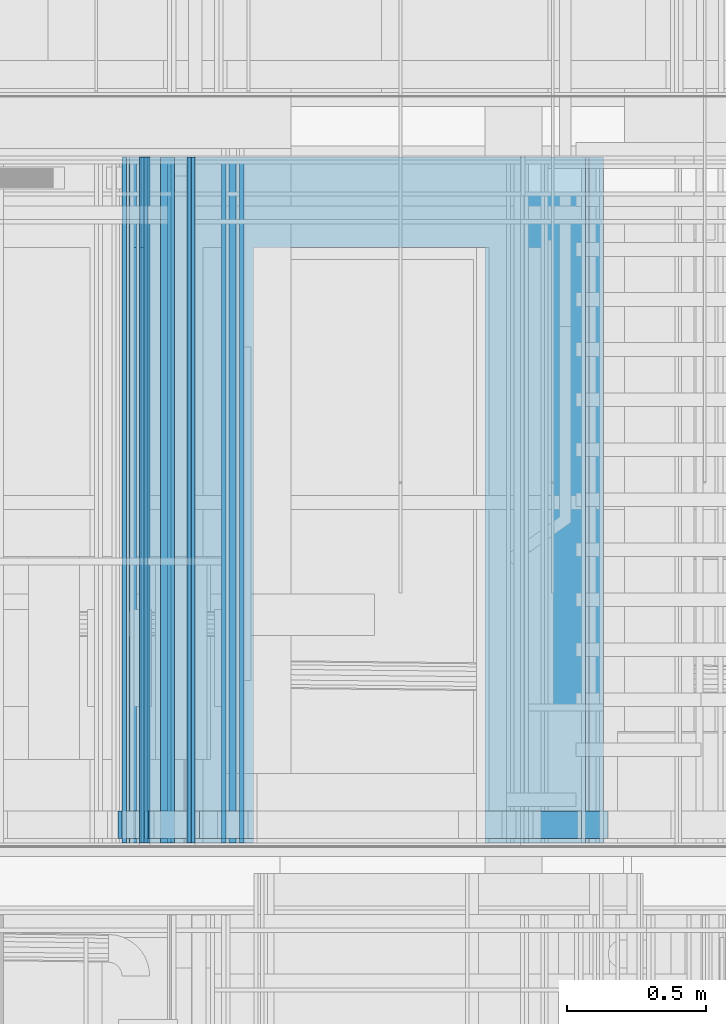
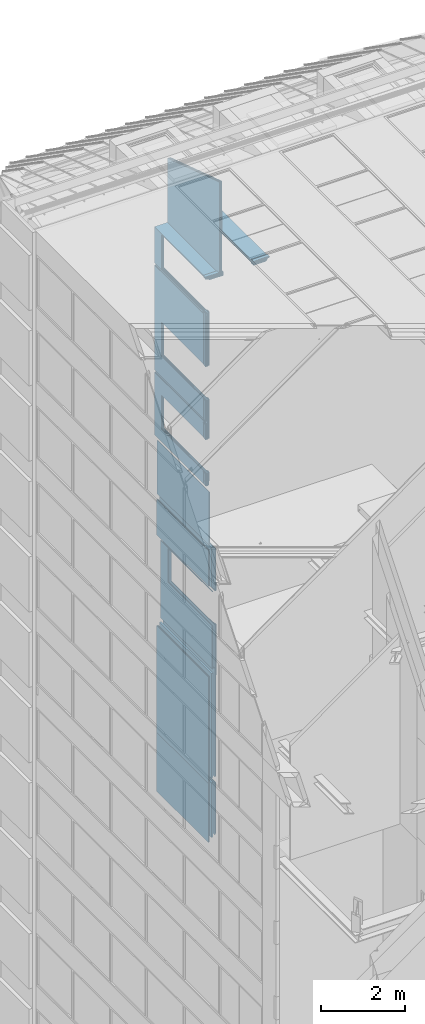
# One storey, part 144 of 583: 41 building element parts, 6 openings, 8 elements without a shape of their own.
"""IFC2X3 building model written with IfcOpenShell, lengths in metres."""

from ifc_helpers import new_model, entity, si_unit, converted_unit, derived_unit, money_unit, direction, frame, frame_2d, origin_with_axes, place, context, subcontext, project, spatial, polyline, rectangle, outline, extrude, clip, halfspace, material, type_object, element, aggregate, save


model = new_model("IFC2X3")

# Units and contexts
model_context = context("Model", 3, precision=1e-05, world=origin_with_axes(), true_north=direction((0.0, 1.0)))
body_context = subcontext(model_context, "Body", "Model", "MODEL_VIEW", scale=1.0)
ifc_project = project(units=[si_unit("LENGTHUNIT", "METRE"), si_unit("AREAUNIT", "SQUARE_METRE"), si_unit("VOLUMEUNIT", "CUBIC_METRE"), si_unit("ABSORBEDDOSEUNIT", "GRAY"), si_unit("AMOUNTOFSUBSTANCEUNIT", "MOLE"), si_unit("DOSEEQUIVALENTUNIT", "SIEVERT"), si_unit("ELECTRICCAPACITANCEUNIT", "FARAD"), si_unit("ELECTRICCHARGEUNIT", "COULOMB"), si_unit("ELECTRICCONDUCTANCEUNIT", "SIEMENS"), si_unit("ELECTRICCURRENTUNIT", "AMPERE"), si_unit("ELECTRICRESISTANCEUNIT", "OHM"), si_unit("ELECTRICVOLTAGEUNIT", "VOLT"), si_unit("ENERGYUNIT", "JOULE"), si_unit("FORCEUNIT", "NEWTON"), si_unit("FREQUENCYUNIT", "HERTZ"), si_unit("ILLUMINANCEUNIT", "LUX"), si_unit("INDUCTANCEUNIT", "HENRY"), si_unit("LUMINOUSFLUXUNIT", "LUMEN"), si_unit("LUMINOUSINTENSITYUNIT", "CANDELA"), si_unit("MAGNETICFLUXDENSITYUNIT", "TESLA"), si_unit("MAGNETICFLUXUNIT", "WEBER"), si_unit("MASSUNIT", "GRAM"), converted_unit("PLANEANGLEUNIT", "degree", entity("IfcReal", 0.0174532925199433), si_unit("PLANEANGLEUNIT", "RADIAN"), dimensions=[0, 0, 0, 0, 0, 0, 0]), si_unit("POWERUNIT", "WATT"), si_unit("PRESSUREUNIT", "PASCAL"), si_unit("RADIOACTIVITYUNIT", "BECQUEREL"), si_unit("SOLIDANGLEUNIT", "STERADIAN"), si_unit("THERMODYNAMICTEMPERATUREUNIT", "KELVIN"), si_unit("TIMEUNIT", "SECOND"), derived_unit("ACCELERATIONUNIT", [(si_unit("LENGTHUNIT", "METRE"), 1), (si_unit("TIMEUNIT", "SECOND"), -2)]), derived_unit("ANGULARVELOCITYUNIT", [(converted_unit("PLANEANGLEUNIT", "degree", entity("IfcReal", 0.0174532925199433), si_unit("PLANEANGLEUNIT", "RADIAN"), dimensions=[0, 0, 0, 0, 0, 0, 0]), 1), (si_unit("TIMEUNIT", "SECOND"), -1)]), derived_unit("CURVATUREUNIT", [(converted_unit("PLANEANGLEUNIT", "degree", entity("IfcReal", 0.0174532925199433), si_unit("PLANEANGLEUNIT", "RADIAN"), dimensions=[0, 0, 0, 0, 0, 0, 0]), 1), (si_unit("LENGTHUNIT", "METRE"), -1)]), derived_unit("DYNAMICVISCOSITYUNIT", [(si_unit("PRESSUREUNIT", "PASCAL"), 1), (si_unit("TIMEUNIT", "SECOND"), 1)]), derived_unit("HEATFLUXDENSITYUNIT", [(si_unit("POWERUNIT", "WATT"), 1), (si_unit("LENGTHUNIT", "METRE"), -2)]), derived_unit("HEATINGVALUEUNIT", [(si_unit("ENERGYUNIT", "JOULE"), 1), (si_unit("MASSUNIT", "GRAM"), -1)]), derived_unit("INTEGERCOUNTRATEUNIT", [(si_unit("TIMEUNIT", "SECOND"), -1)]), derived_unit("IONCONCENTRATIONUNIT", [(si_unit("MASSUNIT", "GRAM"), 1), (si_unit("VOLUMEUNIT", "CUBIC_METRE"), -1)]), derived_unit("ISOTHERMALMOISTURECAPACITYUNIT", [(si_unit("VOLUMEUNIT", "CUBIC_METRE"), 1), (si_unit("MASSUNIT", "GRAM"), -1)]), derived_unit("KINEMATICVISCOSITYUNIT", [(si_unit("AREAUNIT", "SQUARE_METRE"), 1), (si_unit("TIMEUNIT", "SECOND"), -1)]), derived_unit("LINEARFORCEUNIT", [(si_unit("FORCEUNIT", "NEWTON"), 1), (si_unit("LENGTHUNIT", "METRE"), -1)]), derived_unit("LINEARMOMENTUNIT", [(si_unit("FORCEUNIT", "NEWTON"), 1), (si_unit("LENGTHUNIT", "METRE"), -1)]), derived_unit("LINEARSTIFFNESSUNIT", [(si_unit("FORCEUNIT", "NEWTON"), 1), (si_unit("LENGTHUNIT", "METRE"), -1)]), derived_unit("LINEARVELOCITYUNIT", [(si_unit("LENGTHUNIT", "METRE"), 1), (si_unit("TIMEUNIT", "SECOND"), -1)]), derived_unit("LUMINOUSINTENSITYDISTRIBUTIONUNIT", [(si_unit("LUMINOUSINTENSITYUNIT", "CANDELA"), 1), (si_unit("LUMINOUSFLUXUNIT", "LUMEN"), -1)]), derived_unit("MASSDENSITYUNIT", [(si_unit("MASSUNIT", "GRAM"), 1), (si_unit("VOLUMEUNIT", "CUBIC_METRE"), -1)]), derived_unit("MASSFLOWRATEUNIT", [(si_unit("MASSUNIT", "GRAM"), 1), (si_unit("TIMEUNIT", "SECOND"), -1)]), derived_unit("MASSPERLENGTHUNIT", [(si_unit("MASSUNIT", "GRAM"), 1), (si_unit("LENGTHUNIT", "METRE"), -1)]), derived_unit("MODULUSOFELASTICITYUNIT", [(si_unit("FORCEUNIT", "NEWTON"), 1), (si_unit("AREAUNIT", "SQUARE_METRE"), -1)]), derived_unit("MODULUSOFLINEARSUBGRADEREACTIONUNIT", [(si_unit("FORCEUNIT", "NEWTON"), 1), (si_unit("LENGTHUNIT", "METRE"), -2)]), derived_unit("MODULUSOFROTATIONALSUBGRADEREACTIONUNIT", [(si_unit("FORCEUNIT", "NEWTON"), 1), (si_unit("LENGTHUNIT", "METRE"), 1)]), derived_unit("MODULUSOFSUBGRADEREACTIONUNIT", [(si_unit("FORCEUNIT", "NEWTON"), 1), (si_unit("VOLUMEUNIT", "CUBIC_METRE"), -1)]), derived_unit("MOISTUREDIFFUSIVITYUNIT", [(si_unit("VOLUMEUNIT", "CUBIC_METRE"), 1), (si_unit("TIMEUNIT", "SECOND"), -1)]), derived_unit("MOLECULARWEIGHTUNIT", [(si_unit("MASSUNIT", "GRAM"), 1), (si_unit("AMOUNTOFSUBSTANCEUNIT", "MOLE"), -1)]), derived_unit("PLANARFORCEUNIT", [(si_unit("FORCEUNIT", "NEWTON"), 1), (si_unit("LENGTHUNIT", "METRE"), -2)]), derived_unit("ROTATIONALFREQUENCYUNIT", [(si_unit("TIMEUNIT", "SECOND"), -1)]), derived_unit("ROTATIONALMASSUNIT", [(si_unit("MASSUNIT", "GRAM"), 1), (si_unit("LENGTHUNIT", "METRE"), 2)]), derived_unit("ROTATIONALSTIFFNESSUNIT", [(si_unit("FORCEUNIT", "NEWTON"), 1), (si_unit("LENGTHUNIT", "METRE"), 1), (converted_unit("PLANEANGLEUNIT", "degree", entity("IfcReal", 0.0174532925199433), si_unit("PLANEANGLEUNIT", "RADIAN"), dimensions=[0, 0, 0, 0, 0, 0, 0]), -1)]), derived_unit("SECTIONAREAINTEGRALUNIT", [(si_unit("LENGTHUNIT", "METRE"), 5)]), derived_unit("SECTIONMODULUSUNIT", [(si_unit("LENGTHUNIT", "METRE"), 3)]), derived_unit("SHEARMODULUSUNIT", [(si_unit("FORCEUNIT", "NEWTON"), 1), (si_unit("AREAUNIT", "SQUARE_METRE"), -1)]), derived_unit("SOUNDPOWERUNIT", [(si_unit("ENERGYUNIT", "JOULE"), 1), (si_unit("TIMEUNIT", "SECOND"), -1)]), derived_unit("SPECIFICHEATCAPACITYUNIT", [(si_unit("FORCEUNIT", "NEWTON"), 1), (si_unit("MASSUNIT", "GRAM"), -1), (si_unit("THERMODYNAMICTEMPERATUREUNIT", "KELVIN"), -1)]), derived_unit("TEMPERATUREGRADIENTUNIT", [(si_unit("THERMODYNAMICTEMPERATUREUNIT", "KELVIN"), 1), (si_unit("LENGTHUNIT", "METRE"), -1)]), derived_unit("THERMALADMITTANCEUNIT", [(si_unit("POWERUNIT", "WATT"), 1), (si_unit("AREAUNIT", "SQUARE_METRE"), -1), (si_unit("THERMODYNAMICTEMPERATUREUNIT", "KELVIN"), -1)]), derived_unit("THERMALCONDUCTANCEUNIT", [(si_unit("POWERUNIT", "WATT"), 1), (si_unit("LENGTHUNIT", "METRE"), -1), (si_unit("THERMODYNAMICTEMPERATUREUNIT", "KELVIN"), -1)]), derived_unit("THERMALEXPANSIONCOEFFICIENTUNIT", [(si_unit("THERMODYNAMICTEMPERATUREUNIT", "KELVIN"), -1)]), derived_unit("THERMALRESISTANCEUNIT", [(si_unit("AREAUNIT", "SQUARE_METRE"), 1), (si_unit("POWERUNIT", "WATT"), -1)]), derived_unit("THERMALTRANSMITTANCEUNIT", [(si_unit("POWERUNIT", "WATT"), 1), (si_unit("AREAUNIT", "SQUARE_METRE"), -1), (si_unit("THERMODYNAMICTEMPERATUREUNIT", "KELVIN"), -1)]), derived_unit("TORQUEUNIT", [(si_unit("FORCEUNIT", "NEWTON"), 1), (si_unit("LENGTHUNIT", "METRE"), 1)]), derived_unit("VAPORPERMEABILITYUNIT", [(si_unit("MASSUNIT", "GRAM"), 1), (si_unit("TIMEUNIT", "SECOND"), -1)]), derived_unit("VOLUMETRICFLOWRATEUNIT", [(si_unit("VOLUMEUNIT", "CUBIC_METRE"), 1), (si_unit("TIMEUNIT", "SECOND"), -1)]), derived_unit("WARPINGCONSTANTUNIT", [(si_unit("LENGTHUNIT", "METRE"), 6)]), derived_unit("WARPINGMOMENTUNIT", [(si_unit("FORCEUNIT", "NEWTON"), 1), (si_unit("LENGTHUNIT", "METRE"), 2)]), money_unit("GBP")], contexts=[model_context])

# Site, building, storey
site_placement = place(None, origin_with_axes())
site = spatial("IfcSite", under=ifc_project, at=site_placement, Name="Site", CompositionType="ELEMENT")
building_placement = place(site_placement, origin_with_axes())
building = spatial("IfcBuilding", under=site, at=building_placement, Name="Building01", CompositionType="ELEMENT")
storey_placement = place(building_placement, frame((0.0, 0.0, 20.78), z_axis=(0.0, 0.0, 1.0), x_axis=(1.0, 0.0, 0.0)))
storey = spatial("IfcBuildingStorey", under=building, at=storey_placement, Name="RL", CompositionType="ELEMENT", Elevation=20.78)

# Wall, opening, building element parts
wall_type_1 = type_object("IfcWallType", Name="SHE_A-Walls_Type05b_Partition_80mm", PredefinedType="NOTDEFINED")
wall_1_placement = place(storey_placement, frame((4.844, 14.98, 2.983), z_axis=(0.0, 1.0, 0.0), x_axis=(1.0, 0.0, 0.0)))
wall_1 = element("IfcWall", 1, at=wall_1_placement, inside=storey, type_object=wall_type_1, Name="5B", ObjectType="SHE_A-Walls_Type05b_Partition_80mm")
opening_1_placement = place(wall_1_placement, frame((0.444939, -0.027, 0.0), z_axis=(0.0, 0.0, 1.0), x_axis=(1.0, 0.0, 0.0)))
element("IfcOpeningElement", 2, at=opening_1_placement, cuts=wall_1, Name="Opening", ObjectType="Opening", context=body_context, shape_type="SweptSolid", body=[
    extrude(rectangle(XDim=2.142, YDim=0.834, at=frame_2d((0.417, 1.071), x_axis=(0.0, -1.0))), frame((0.0, 3.869333, 0.0), z_axis=(0.0, -1.0, 0.0), x_axis=(1.0, 0.0, 0.0)), (0.0, 0.0, 1.0), 7.738666),
])
ifc_material_1 = material(Name="A_BSUK_Insulation")
placement_1 = place(wall_1_placement, origin_with_axes())
building_element_part_1 = element("IfcBuildingElementPart", 3, at=placement_1, material=ifc_material_1, Name="1", context=body_context, shape_type="SweptSolid", body=[
    extrude(rectangle(XDim=1.654085, YDim=0.025, at=frame_2d((0.827042, 0.0125), x_axis=(-1.0, 0.0))), origin_with_axes(), (0.0, 0.0, 1.0), 2.468),
])
ifc_material_2 = material(Name="A_BSUK_Walls_Timber")
building_element_part_2 = element("IfcBuildingElementPart", 4, at=placement_1, material=ifc_material_2, Name="2", context=body_context, shape_type="SweptSolid", body=[
    extrude(outline(polyline([(1.611085, 0.068), (0.068, 0.068), (0.053, 0.053), (1.626085, 0.053), (1.611085, 0.068)])), frame((0.0, 0.0, 0.015), z_axis=(0.0, 0.0, 1.0), x_axis=(1.0, 0.0, 0.0)), (0.0, 0.0, 1.0), 0.1),
])
ifc_material_3 = material(Name="A_BSUK_WallInternal_Finishes_Plasterboard")
building_element_part_3 = element("IfcBuildingElementPart", 5, at=placement_1, material=ifc_material_3, Name="3", context=body_context, shape_type="SweptSolid", body=[
    extrude(outline(polyline([(1.626085, 0.053), (0.053, 0.053), (0.038, 0.038), (1.641085, 0.038), (1.626085, 0.053)])), origin_with_axes(), (0.0, 0.0, 1.0), 2.468),
])
building_element_part_4 = element("IfcBuildingElementPart", 6, at=placement_1, material=ifc_material_3, Name="4", context=body_context, shape_type="SweptSolid", body=[
    extrude(outline(polyline([(1.691085, -0.012), (-0.012, -0.012), (-0.027, -0.027), (1.706085, -0.027), (1.691085, -0.012)])), origin_with_axes(), (0.0, 0.0, 1.0), 2.468),
])
building_element_part_5 = element("IfcBuildingElementPart", 7, at=placement_1, material=ifc_material_2, Name="5", context=body_context, shape_type="SweptSolid", body=[
    extrude(outline(polyline([(1.706085, -0.027), (-0.027, -0.027), (-0.042, -0.042), (1.721085, -0.042), (1.706085, -0.027)])), frame((0.0, 0.0, 0.015), z_axis=(0.0, 0.0, 1.0), x_axis=(1.0, 0.0, 0.0)), (0.0, 0.0, 1.0), 0.1),
])
building_element_part_6 = element("IfcBuildingElementPart", 8, at=placement_1, material=ifc_material_2, Name="6", context=body_context, shape_type="SweptSolid", body=[
    extrude(outline(polyline([(1.706085, -0.027), (0.451294, -0.027), (0.451294, -0.042), (1.721085, -0.042), (1.706085, -0.027)])), frame((0.0, 0.0, 0.015), z_axis=(0.0, 0.0, 1.0), x_axis=(1.0, 0.0, 0.0)), (0.0, 0.0, 1.0), 0.1),
])
building_element_part_7 = element("IfcBuildingElementPart", 9, at=placement_1, material=ifc_material_3, Name="7", context=body_context, shape_type="SweptSolid", body=[
    extrude(outline(polyline([(1.691085, -0.012), (0.395915, -0.012), (0.395915, -0.027), (1.706085, -0.027), (1.691085, -0.012)])), origin_with_axes(), (0.0, 0.0, 1.0), 2.468),
])
aggregate(wall_1, [building_element_part_1, building_element_part_2, building_element_part_3, building_element_part_4, building_element_part_5, building_element_part_6, building_element_part_7])

# Wall, building element parts
wall_type_2 = type_object("IfcWallType", Name="SHE_A-Walls_Type01d_Partywall_200mm_twin", PredefinedType="NOTDEFINED")
wall_2_placement = place(storey_placement, frame((4.955, 14.98, -13.295), z_axis=(0.0, 1.0, 0.0), x_axis=(0.0, 0.0, 1.0)))
wall_2 = element("IfcWall", 10, at=wall_2_placement, inside=storey, type_object=wall_type_2, Name="1D", ObjectType="SHE_A-Walls_Type01d_Partywall_200mm_twin")
placement_2 = place(wall_2_placement, origin_with_axes())
building_element_part_8 = element("IfcBuildingElementPart", 11, at=placement_2, material=ifc_material_1, Name="1", context=body_context, shape_type="SweptSolid", body=[
    extrude(rectangle(XDim=1.59, YDim=0.05, at=frame_2d((0.795, 0.025), x_axis=(-1.0, 0.0))), origin_with_axes(), (0.0, 0.0, 1.0), 2.468),
])
building_element_part_9 = element("IfcBuildingElementPart", 12, at=placement_2, material=ifc_material_3, Name="3", context=body_context, shape_type="SweptSolid", body=[
    extrude(outline(polyline([(1.575, 0.125), (0.075, 0.125), (0.06, 0.11), (1.575, 0.11), (1.575, 0.125)])), origin_with_axes(), (0.0, 0.0, 1.0), 2.468),
])
building_element_part_10 = element("IfcBuildingElementPart", 13, at=placement_2, material=ifc_material_3, Name="4", context=body_context, shape_type="SweptSolid", body=[
    extrude(outline(polyline([(1.59, 0.11), (0.06, 0.11), (0.045, 0.095), (1.59, 0.095), (1.59, 0.11)])), origin_with_axes(), (0.0, 0.0, 1.0), 2.468),
])
building_element_part_11 = element("IfcBuildingElementPart", 14, at=placement_2, material=ifc_material_3, Name="5", context=body_context, shape_type="SweptSolid", body=[
    extrude(outline(polyline([(1.59, -0.045), (-0.095, -0.045), (-0.11, -0.06), (1.59, -0.06), (1.59, -0.045)])), origin_with_axes(), (0.0, 0.0, 1.0), 2.468),
])
building_element_part_12 = element("IfcBuildingElementPart", 15, at=placement_2, material=ifc_material_3, Name="6", context=body_context, shape_type="SweptSolid", body=[
    extrude(outline(polyline([(1.59, -0.06), (-0.11, -0.06), (-0.125, -0.075), (1.59, -0.075), (1.59, -0.06)])), origin_with_axes(), (0.0, 0.0, 1.0), 2.468),
])
aggregate(wall_2, [building_element_part_8, building_element_part_9, building_element_part_10, building_element_part_11, building_element_part_12])

# Wall, openings, building element parts
wall_type_3 = type_object("IfcWallType", Name="SHE_A-Walls_Type03c_Firewall_F120_100mm", PredefinedType="NOTDEFINED")
wall_3_placement = place(storey_placement, frame((5.08, 14.995, -8.605), z_axis=(0.0, 1.0, 0.0), x_axis=(0.0, 0.0, 1.0)))
wall_3 = element("IfcWall", 16, at=wall_3_placement, inside=storey, type_object=wall_type_3, Name="3C", ObjectType="SHE_A-Walls_Type03c_Firewall_F120_100mm")
opening_2_placement = place(wall_3_placement, frame((1.45, -0.29615, -0.045), z_axis=(0.0, 0.0, 1.0), x_axis=(1.0, 0.0, 0.0)))
element("IfcOpeningElement", 17, at=opening_2_placement, cuts=wall_3, Name="Opening", ObjectType="Opening", context=body_context, shape_type="SweptSolid", body=[
    extrude(rectangle(XDim=0.984, YDim=2.1, at=frame_2d((-0.492, 1.05), x_axis=(-1.0, 0.0))), frame((0.0, -9.737966, 0.0), z_axis=(0.0, 1.0, 0.0), x_axis=(-1.0, 0.0, 0.0)), (0.0, 0.0, 1.0), 19.475931),
])
opening_3_placement = place(wall_3_placement, frame((1.45, -0.1, -0.015), z_axis=(0.0, 0.0, 1.0), x_axis=(1.0, 0.0, 0.0)))
element("IfcOpeningElement", 18, at=opening_3_placement, cuts=wall_3, Name="Opening", ObjectType="Opening", context=body_context, shape_type="SweptSolid", body=[
    extrude(rectangle(XDim=0.984, YDim=2.1, at=frame_2d((-0.492, 1.05), x_axis=(-1.0, 0.0))), frame((0.0, -3.747373, 0.0), z_axis=(0.0, 1.0, 0.0), x_axis=(-1.0, 0.0, 0.0)), (0.0, 0.0, 1.0), 7.494746),
])
placement_3 = place(wall_3_placement, origin_with_axes())
building_element_part_13 = element("IfcBuildingElementPart", 19, at=placement_3, material=ifc_material_2, Name="1", context=body_context, shape_type="SweptSolid", body=[
    extrude(outline(polyline([(2.665, 0.015), (-0.015, 0.015), (0.0, 0.0), (2.65, 0.0), (2.665, 0.015)])), origin_with_axes(), (0.0, 0.0, 1.0), 0.1),
])
building_element_part_14 = element("IfcBuildingElementPart", 20, at=placement_3, material=ifc_material_3, Name="2", context=body_context, shape_type="SweptSolid", body=[
    extrude(rectangle(XDim=2.25, YDim=0.013, at=frame_2d((1.325, -0.0065), x_axis=(-1.0, 0.0))), frame((0.0, 0.0, -0.015), z_axis=(0.0, 0.0, 1.0), x_axis=(1.0, 0.0, 0.0)), (0.0, 0.0, 1.0), 2.468),
])
building_element_part_15 = element("IfcBuildingElementPart", 21, at=placement_3, material=ifc_material_3, Name="3", context=body_context, shape_type="SweptSolid", body=[
    extrude(rectangle(XDim=2.25, YDim=0.013, at=frame_2d((1.325, -0.0935), x_axis=(-1.0, 0.0))), frame((0.0, 0.0, -0.015), z_axis=(0.0, 0.0, 1.0), x_axis=(1.0, 0.0, 0.0)), (0.0, 0.0, 1.0), 2.468),
])
building_element_part_16 = element("IfcBuildingElementPart", 22, at=placement_3, material=ifc_material_3, Name="4", context=body_context, shape_type="SweptSolid", body=[
    extrude(rectangle(XDim=2.25, YDim=0.012, at=frame_2d((1.325, -0.019), x_axis=(-1.0, 0.0))), frame((0.0, 0.0, -0.015), z_axis=(0.0, 0.0, 1.0), x_axis=(1.0, 0.0, 0.0)), (0.0, 0.0, 1.0), 2.468),
])
building_element_part_17 = element("IfcBuildingElementPart", 23, at=placement_3, material=ifc_material_3, Name="5", context=body_context, shape_type="SweptSolid", body=[
    extrude(rectangle(XDim=2.25, YDim=0.012, at=frame_2d((1.325, -0.081), x_axis=(-1.0, 0.0))), frame((0.0, 0.0, -0.015), z_axis=(0.0, 0.0, 1.0), x_axis=(1.0, 0.0, 0.0)), (0.0, 0.0, 1.0), 2.468),
])
aggregate(wall_3, [building_element_part_13, building_element_part_14, building_element_part_15, building_element_part_16, building_element_part_17])

# Wall, building element parts
wall_4_placement = place(storey_placement, frame((4.842, 14.98, -3.16656), z_axis=(0.0, 1.0, 0.0), x_axis=(0.0, 0.0, -1.0)))
wall_4 = element("IfcWall", 24, at=wall_4_placement, inside=storey, type_object=wall_type_2, Name="1D", ObjectType="SHE_A-Walls_Type01d_Partywall_200mm_twin")
placement_4 = place(wall_4_placement, origin_with_axes())
building_element_part_18 = element("IfcBuildingElementPart", 25, at=placement_4, material=ifc_material_3, Name="5", context=body_context, shape_type="SweptSolid", body=[
    extrude(outline(polyline([(1.605, -0.045), (0.045, -0.045), (0.06, -0.06), (1.59, -0.06), (1.605, -0.045)])), origin_with_axes(), (0.0, 0.0, 1.0), 2.468),
])
building_element_part_19 = element("IfcBuildingElementPart", 26, at=placement_4, material=ifc_material_3, Name="6", context=body_context, shape_type="SweptSolid", body=[
    extrude(outline(polyline([(1.59, -0.06), (0.06, -0.06), (0.075, -0.075), (1.575, -0.075), (1.59, -0.06)])), origin_with_axes(), (0.0, 0.0, 1.0), 2.468),
])
aggregate(wall_4, [building_element_part_18, building_element_part_19])

wall_5_placement = place(storey_placement, frame((4.955, 14.98, -6.03), z_axis=(0.0, 1.0, 0.0), x_axis=(0.0, 0.0, 1.0)))
wall_5 = element("IfcWall", 27, at=wall_5_placement, inside=storey, type_object=wall_type_2, Name="1D", ObjectType="SHE_A-Walls_Type01d_Partywall_200mm_twin")
placement_5 = place(wall_5_placement, origin_with_axes())
building_element_part_20 = element("IfcBuildingElementPart", 28, at=placement_5, material=ifc_material_1, Name="1", context=body_context, shape_type="SweptSolid", body=[
    extrude(rectangle(XDim=1.16344, YDim=0.05, at=frame_2d((0.58172, 0.025), x_axis=(-1.0, 0.0))), origin_with_axes(), (0.0, 0.0, 1.0), 2.468),
])
building_element_part_21 = element("IfcBuildingElementPart", 29, at=placement_5, material=ifc_material_3, Name="3", context=body_context, shape_type="SweptSolid", body=[
    extrude(rectangle(XDim=1.22844, YDim=0.015, at=frame_2d((0.48922, 0.1175), x_axis=(-1.0, 0.0))), origin_with_axes(), (0.0, 0.0, 1.0), 2.468),
])
building_element_part_22 = element("IfcBuildingElementPart", 30, at=placement_5, material=ifc_material_3, Name="4", context=body_context, shape_type="SweptSolid", body=[
    extrude(rectangle(XDim=1.21344, YDim=0.015, at=frame_2d((0.51172, 0.1025), x_axis=(-1.0, 0.0))), origin_with_axes(), (0.0, 0.0, 1.0), 2.468),
])
building_element_part_23 = element("IfcBuildingElementPart", 31, at=placement_5, material=ifc_material_3, Name="5", context=body_context, shape_type="SweptSolid", body=[
    extrude(rectangle(XDim=1.05844, YDim=0.015, at=frame_2d((0.57422, -0.0525), x_axis=(-1.0, 0.0))), origin_with_axes(), (0.0, 0.0, 1.0), 2.468),
])
building_element_part_24 = element("IfcBuildingElementPart", 32, at=placement_5, material=ifc_material_3, Name="6", context=body_context, shape_type="SweptSolid", body=[
    extrude(rectangle(XDim=1.02844, YDim=0.015, at=frame_2d((0.57422, -0.0675), x_axis=(-1.0, 0.0))), origin_with_axes(), (0.0, 0.0, 1.0), 2.468),
])
aggregate(wall_5, [building_element_part_20, building_element_part_21, building_element_part_22, building_element_part_23, building_element_part_24])

wall_6_placement = place(storey_placement, frame((4.955, 14.98, -11.565), z_axis=(0.0, 1.0, 0.0), x_axis=(0.0, 0.0, 1.0)))
wall_6 = element("IfcWall", 33, at=wall_6_placement, inside=storey, type_object=wall_type_2, Name="1D", ObjectType="SHE_A-Walls_Type01d_Partywall_200mm_twin")
placement_6 = place(wall_6_placement, origin_with_axes())
building_element_part_25 = element("IfcBuildingElementPart", 34, at=placement_6, material=ifc_material_1, Name="1", context=body_context, shape_type="SweptSolid", body=[
    extrude(rectangle(XDim=3.035, YDim=0.05, at=frame_2d((1.5175, 0.025), x_axis=(-1.0, 0.0))), origin_with_axes(), (0.0, 0.0, 1.0), 2.468),
])
building_element_part_26 = element("IfcBuildingElementPart", 35, at=placement_6, material=ifc_material_3, Name="3", context=body_context, shape_type="SweptSolid", body=[
    extrude(rectangle(XDim=3.145, YDim=0.015, at=frame_2d((1.5875, 0.1175), x_axis=(-1.0, 0.0))), origin_with_axes(), (0.0, 0.0, 1.0), 2.468),
])
building_element_part_27 = element("IfcBuildingElementPart", 36, at=placement_6, material=ifc_material_3, Name="4", context=body_context, shape_type="SweptSolid", body=[
    extrude(rectangle(XDim=3.145, YDim=0.015, at=frame_2d((1.5725, 0.1025), x_axis=(-1.0, 0.0))), origin_with_axes(), (0.0, 0.0, 1.0), 2.468),
])
building_element_part_28 = element("IfcBuildingElementPart", 37, at=placement_6, material=ifc_material_3, Name="5", context=body_context, shape_type="SweptSolid", body=[
    extrude(rectangle(XDim=3.115, YDim=0.015, at=frame_2d((1.4175, -0.0525), x_axis=(-1.0, 0.0))), origin_with_axes(), (0.0, 0.0, 1.0), 2.468),
])
building_element_part_29 = element("IfcBuildingElementPart", 38, at=placement_6, material=ifc_material_3, Name="6", context=body_context, shape_type="SweptSolid", body=[
    extrude(rectangle(XDim=3.1, YDim=0.015, at=frame_2d((1.41, -0.0675), x_axis=(-1.0, 0.0))), origin_with_axes(), (0.0, 0.0, 1.0), 2.468),
])
aggregate(wall_6, [building_element_part_25, building_element_part_26, building_element_part_27, building_element_part_28, building_element_part_29])

wall_7_placement = place(storey_placement, frame((5.201915, 14.98, 2.983), z_axis=(0.0, 1.0, 0.0), x_axis=(0.0, 0.0, 1.0)))
wall_7 = element("IfcWall", 39, at=wall_7_placement, inside=storey, type_object=wall_type_1, Name="5B", ObjectType="SHE_A-Walls_Type05b_Partition_80mm")
placement_7 = place(wall_7_placement, origin_with_axes())
building_element_part_30 = element("IfcBuildingElementPart", 40, at=placement_7, material=ifc_material_1, Name="1", context=body_context, shape_type="Clipping", body=[
    clip(extrude(rectangle(XDim=2.693143, YDim=0.025, at=frame_2d((1.346572, 0.0125), x_axis=(-1.0, 0.0))), origin_with_axes(), (0.0, 0.0, 1.0), 2.468), halfspace(frame((2.435971, 0.0, 0.791495), z_axis=(-0.95105652, 0.0, -0.30901699), x_axis=(0.0, -1.0, 0.0)), True)),
])
building_element_part_31 = element("IfcBuildingElementPart", 41, at=placement_7, material=ifc_material_3, Name="3", context=body_context, shape_type="Clipping", body=[
    clip(extrude(rectangle(XDim=2.666143, YDim=0.015, at=frame_2d((1.360072, 0.0455), x_axis=(-1.0, 0.0))), origin_with_axes(), (0.0, 0.0, 1.0), 2.468), halfspace(frame((2.435971, 0.0, 0.791495), z_axis=(-0.95105652, 0.0, -0.30901699), x_axis=(0.0, -1.0, 0.0)), True)),
])
building_element_part_32 = element("IfcBuildingElementPart", 42, at=placement_7, material=ifc_material_3, Name="4", context=body_context, shape_type="Clipping", body=[
    clip(extrude(rectangle(XDim=2.666143, YDim=0.015, at=frame_2d((1.360072, -0.0195), x_axis=(-1.0, 0.0))), origin_with_axes(), (0.0, 0.0, 1.0), 2.468), halfspace(frame((2.435971, 0.0, 0.791495), z_axis=(-0.95105652, 0.0, -0.30901699), x_axis=(0.0, -1.0, 0.0)), True)),
])
aggregate(wall_7, [building_element_part_30, building_element_part_31, building_element_part_32])

# Wall, openings, building element parts
wall_8_placement = place(storey_placement, frame((4.844, 14.98, -3.04156), z_axis=(0.0, 1.0, 0.0), x_axis=(0.0, 0.0, 1.0)))
wall_8 = element("IfcWall", 43, at=wall_8_placement, inside=storey, type_object=wall_type_1, Name="5B", ObjectType="SHE_A-Walls_Type05b_Partition_80mm")
opening_4_placement = place(wall_8_placement, frame((0.369536, -0.01915, 0.0), z_axis=(0.0, 0.0, 1.0), x_axis=(1.0, 0.0, 0.0)))
element("IfcOpeningElement", 44, at=opening_4_placement, cuts=wall_8, Name="Opening", ObjectType="Opening", context=body_context, shape_type="SweptSolid", body=[
    extrude(rectangle(XDim=0.984, YDim=2.142, at=frame_2d((0.492, 1.071), x_axis=(-1.0, 0.0))), frame((0.0, 6.805034, 0.0), z_axis=(0.0, -1.0, 0.0), x_axis=(1.0, 0.0, 0.0)), (0.0, 0.0, 1.0), 13.610069),
])
opening_5_placement = place(wall_8_placement, frame((2.489536, -0.01915, 0.0), z_axis=(0.0, 0.0, 1.0), x_axis=(1.0, 0.0, 0.0)))
element("IfcOpeningElement", 45, at=opening_5_placement, cuts=wall_8, Name="Opening", ObjectType="Opening", context=body_context, shape_type="SweptSolid", body=[
    extrude(rectangle(XDim=0.984, YDim=2.142, at=frame_2d((0.492, 1.071), x_axis=(1.0, 0.0))), frame((0.0, 6.805034, 0.0), z_axis=(0.0, -1.0, 0.0), x_axis=(1.0, 0.0, 0.0)), (0.0, 0.0, 1.0), 13.610069),
])
opening_6_placement = place(wall_8_placement, frame((5.02956, -0.01915, 0.0), z_axis=(0.0, 0.0, 1.0), x_axis=(1.0, 0.0, 0.0)))
element("IfcOpeningElement", 46, at=opening_6_placement, cuts=wall_8, Name="Opening", ObjectType="Opening", context=body_context, shape_type="SweptSolid", body=[
    extrude(rectangle(XDim=0.984, YDim=2.142, at=frame_2d((0.492, 1.071), x_axis=(1.0, 0.0))), frame((0.0, 6.819158, 0.0), z_axis=(0.0, -1.0, 0.0), x_axis=(1.0, 0.0, 0.0)), (0.0, 0.0, 1.0), 13.638316),
])
placement_8 = place(wall_8_placement, origin_with_axes())
building_element_part_33 = element("IfcBuildingElementPart", 47, at=placement_8, material=ifc_material_1, Name="1", context=body_context, shape_type="SweptSolid", body=[
    extrude(rectangle(XDim=5.99956, YDim=0.025, at=frame_2d((2.99978, 0.0125), x_axis=(-1.0, 0.0))), origin_with_axes(), (0.0, 0.0, 1.0), 2.468),
])
building_element_part_34 = element("IfcBuildingElementPart", 48, at=placement_8, material=ifc_material_2, Name="2", context=body_context, shape_type="SweptSolid", body=[
    extrude(outline(polyline([(5.95656, 0.068), (0.121051, 0.068), (0.121051, 0.053), (5.97156, 0.053), (5.95656, 0.068)])), frame((0.0, 0.0, 0.015), z_axis=(0.0, 0.0, 1.0), x_axis=(1.0, 0.0, 0.0)), (0.0, 0.0, 1.0), 0.1),
])
building_element_part_35 = element("IfcBuildingElementPart", 49, at=placement_8, material=ifc_material_3, Name="3", context=body_context, shape_type="SweptSolid", body=[
    extrude(outline(polyline([(5.97156, 0.053), (0.0, 0.053), (0.0, 0.038), (5.98656, 0.038), (5.97156, 0.053)])), origin_with_axes(), (0.0, 0.0, 1.0), 2.468),
])
building_element_part_36 = element("IfcBuildingElementPart", 50, at=placement_8, material=ifc_material_3, Name="4", context=body_context, shape_type="SweptSolid", body=[
    extrude(rectangle(XDim=1.826536, YDim=0.015, at=frame_2d((0.913268, -0.0195), x_axis=(-1.0, 0.0))), origin_with_axes(), (0.0, 0.0, 1.0), 2.468),
])
building_element_part_37 = element("IfcBuildingElementPart", 51, at=placement_8, material=ifc_material_2, Name="5", context=body_context, shape_type="SweptSolid", body=[
    extrude(rectangle(XDim=1.675484, YDim=0.015, at=frame_2d((0.958794, -0.0345), x_axis=(-1.0, 0.0))), frame((0.0, 0.0, 0.015), z_axis=(0.0, 0.0, 1.0), x_axis=(1.0, 0.0, 0.0)), (0.0, 0.0, 1.0), 0.1),
])
building_element_part_38 = element("IfcBuildingElementPart", 52, at=placement_8, material=ifc_material_2, Name="6", context=body_context, shape_type="SweptSolid", body=[
    extrude(outline(polyline([(6.05156, -0.027), (1.891536, -0.027), (1.891536, -0.042), (6.06656, -0.042), (6.05156, -0.027)])), frame((0.0, 0.0, 0.015), z_axis=(0.0, 0.0, 1.0), x_axis=(1.0, 0.0, 0.0)), (0.0, 0.0, 1.0), 0.1),
])
building_element_part_39 = element("IfcBuildingElementPart", 53, at=placement_8, material=ifc_material_3, Name="7", context=body_context, shape_type="SweptSolid", body=[
    extrude(outline(polyline([(6.03656, -0.012), (5.001585, -0.012), (5.001585, -0.027), (6.05156, -0.027), (6.03656, -0.012)])), origin_with_axes(), (0.0, 0.0, 1.0), 2.468),
])
building_element_part_40 = element("IfcBuildingElementPart", 54, at=placement_8, material=ifc_material_2, Name="8", context=body_context, shape_type="SweptSolid", body=[
    extrude(rectangle(XDim=1.781536, YDim=0.015, at=frame_2d((0.905768, -0.0345), x_axis=(-1.0, 0.0))), frame((0.0, 0.0, 0.015), z_axis=(0.0, 0.0, 1.0), x_axis=(1.0, 0.0, 0.0)), (0.0, 0.0, 1.0), 0.1),
])
building_element_part_41 = element("IfcBuildingElementPart", 55, at=placement_8, material=ifc_material_3, Name="9", context=body_context, shape_type="SweptSolid", body=[
    extrude(rectangle(XDim=3.045049, YDim=0.015, at=frame_2d((3.41406, -0.0195), x_axis=(-1.0, 0.0))), origin_with_axes(), (0.0, 0.0, 1.0), 2.468),
])
aggregate(wall_8, [building_element_part_33, building_element_part_34, building_element_part_35, building_element_part_36, building_element_part_37, building_element_part_38, building_element_part_39, building_element_part_40, building_element_part_41])

save(model, "model.ifc")
